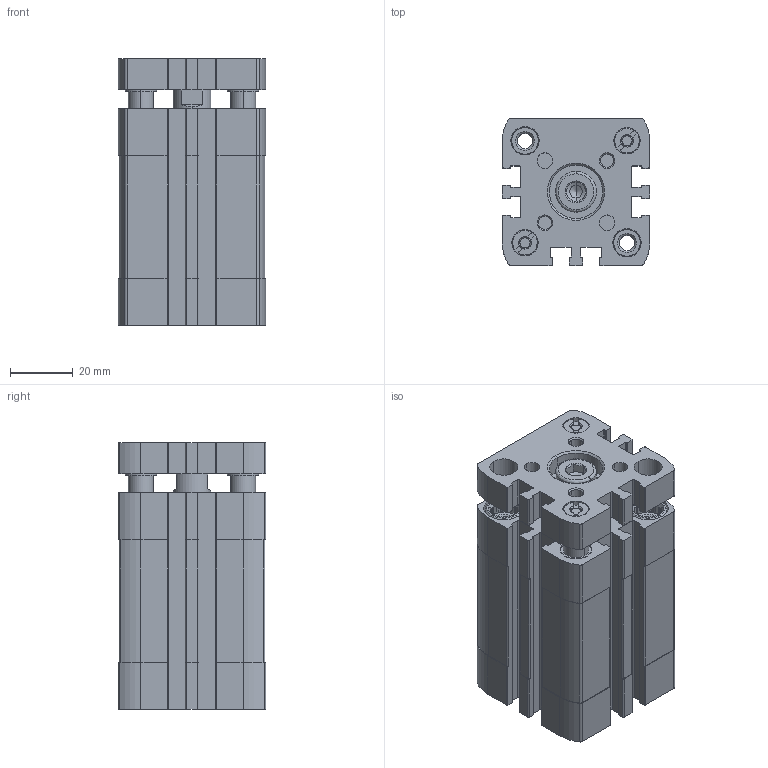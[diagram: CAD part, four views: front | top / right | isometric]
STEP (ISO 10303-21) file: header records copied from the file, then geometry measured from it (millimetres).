
FILE_DESCRIPTION (( 'STEP AP203' ), '1' );
FILE_NAME ('CCBG32-25.STEP', '2017-04-13T18:40:57', ( '' ), ( '' ), 'SwSTEP 2.0', 'SolidWorks 2016', '' );
FILE_SCHEMA (( 'CONFIG_CONTROL_DESIGN' ));
Length unit declared in the file: millimetre
Products named in the file (3): CCNG-32-25---(KS); CCBG32-25; CCNG-32-25--(Z)
Assembly tree (2 placements, depth 2):
  CCBG32-25
    CCNG-32-25--(Z)
    CCNG-32-25---(KS)
Bounding box: 47 x 47 x 85 mm (x, y, z)
Volume: 126229.2 mm3; surface area: 51364.3 mm2
Topology: 2 solids, 4 shells, 715 faces, 1922 edges, 1257 vertices
Faces by surface type: plane 363, cylinder 274, cone 72, bspline 6
Entity records: 23115 total; most frequent: CARTESIAN_POINT 4433, DIRECTION 3960, ORIENTED_EDGE 3840, EDGE_CURVE 1920, AXIS2_PLACEMENT_3D 1460, VERTEX_POINT 1257, LINE 1040, VECTOR 1040
